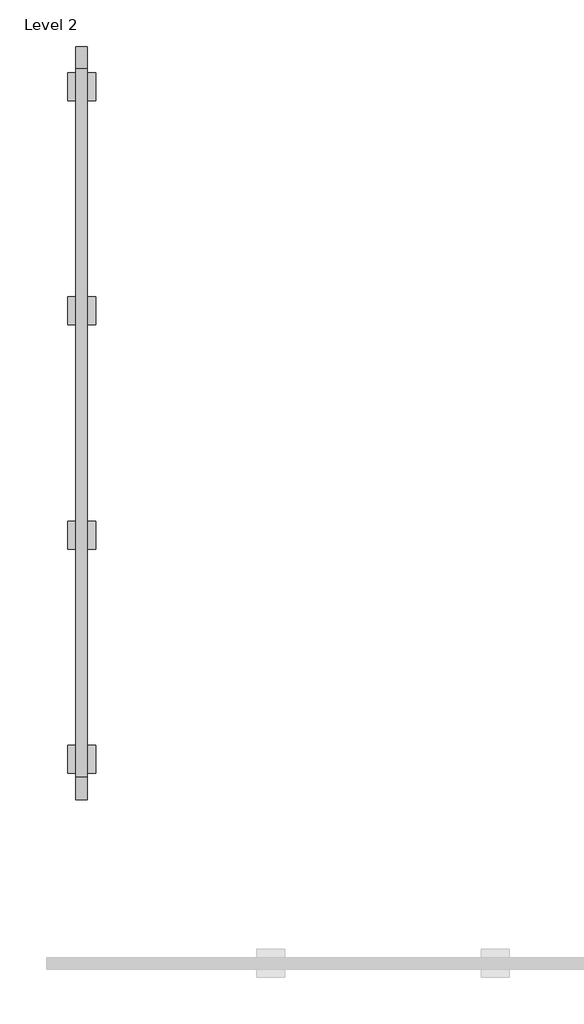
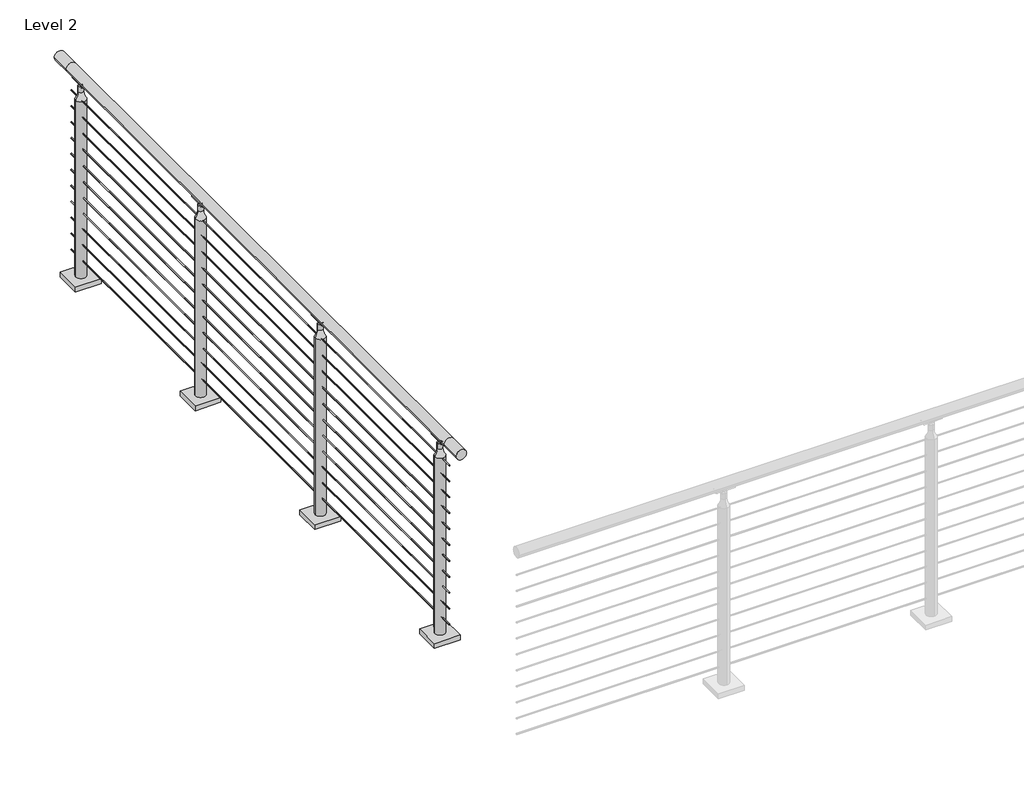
# One storey, part 10 of 21: 1 railing.
"""IFC4 building model written with IfcOpenShell, lengths in millimetres."""

from ifc_helpers import new_model, si_unit, point, frame, frame_2d, origin, place, context, project, spatial, polyline, circle_curve, ellipse_curve, trimmed, segment, composite_curve, outline, extrude, element, save
from ifc_brep_helpers import plane_surface, cylinder_surface, revolved_surface, advanced_brep

model = new_model("IFC4")

# Units and contexts
model_context = context("Model", 3, world=origin())
ifc_project = project(units=[si_unit("LENGTHUNIT", "METRE", prefix="MILLI")], contexts=[model_context])

# Site, building, storey
site = spatial("IfcSite", under=ifc_project)
building = spatial("IfcBuilding", under=site)
storey = spatial("IfcBuildingStorey", under=building, Name="Level 2", Elevation=3048.0)

# Railing
placement = place(None, origin())
element("IfcRailing", 1, ObjectType="VIVA-CIRCA-Cable-Floor Mount-Straight", at=placement, inside=storey, context=model_context, shape_type="SolidModel", body=[
    advanced_brep(
    [(15627.1572927, -51362.5040223, 4102.1), (15576.3572927, -51362.5040223, 4102.1), (15627.1572927, -51260.9040223, 4102.1), (15576.3572927, -51260.9040223, 4102.1), (15627.1572927, -48053.4426165, 4102.1), (15576.3572927, -48053.4426165, 4102.1), (15627.1572927, -47951.8426165, 4102.1), (15576.3572927, -47951.8426165, 4102.1)],
    [
        (0, 1, circle_curve(frame((15601.7572927, -51362.5040223, 4102.1), z_axis=(0.0, -1.0, 0.0), x_axis=(-1.0, 0.0, 0.0)), 25.4)),
        (1, 0, circle_curve(frame((15601.7572927, -51362.5040223, 4102.1), z_axis=(0.0, -1.0, 0.0), x_axis=(-1.0, 0.0, 0.0)), 25.4)),
        (0, 2),
        (2, 3, circle_curve(frame((15601.7572927, -51260.9040223, 4102.1), z_axis=(0.0, -1.0, 0.0), x_axis=(-1.0, 0.0, 0.0)), 25.4)),
        (3, 1),
        (3, 2, circle_curve(frame((15601.7572927, -51260.9040223, 4102.1), z_axis=(0.0, -1.0, 0.0), x_axis=(-1.0, 0.0, 0.0)), 25.4)),
        (2, 4),
        (4, 5, circle_curve(frame((15601.7572927, -48053.4426165, 4102.1), z_axis=(0.0, -1.0, 0.0), x_axis=(-1.0, 0.0, 0.0)), 25.4)),
        (5, 3),
        (5, 4, circle_curve(frame((15601.7572927, -48053.4426165, 4102.1), z_axis=(0.0, -1.0, 0.0), x_axis=(-1.0, 0.0, 0.0)), 25.4)),
        (6, 7, circle_curve(frame((15601.7572927, -47951.8426165, 4102.1), z_axis=(0.0, 1.0, 0.0), x_axis=(-1.0, 0.0, 0.0)), 25.4)),
        (7, 6, circle_curve(frame((15601.7572927, -47951.8426165, 4102.1), z_axis=(0.0, 1.0, 0.0), x_axis=(-1.0, 0.0, 0.0)), 25.4)),
        (4, 6),
        (7, 5),
    ],
    [
        plane_surface(frame((15601.7572927, -51362.5040223, 4127.5), z_axis=(0.0, -1.0, 0.0), x_axis=(0.0, 0.0, 1.0))),
        cylinder_surface(frame((15601.7572927, -51362.5040223, 4102.1), z_axis=(0.0, -1.0, 0.0), x_axis=(-1.0, 0.0, 0.0)), 25.4),
        cylinder_surface(frame((15601.7572927, -51260.9040223, 4102.1), z_axis=(0.0, -1.0, 0.0), x_axis=(-1.0, 0.0, 0.0)), 25.4),
        plane_surface(frame((15601.7572927, -47951.8426165, 4127.5), z_axis=(0.0, 1.0, 0.0), x_axis=(0.0, 0.0, 1.0))),
        cylinder_surface(frame((15601.7572927, -48053.4426165, 4102.1), z_axis=(0.0, -1.0, 0.0), x_axis=(-1.0, 0.0, 0.0)), 25.4),
    ],
    [
        (0, [[1, 2]]),
        (1, [[-1, 3, 4, 5]]),
        (1, [[-2, -5, 6, -3]]),
        (2, [[-4, 7, 8, 9]]),
        (2, [[-6, -9, 10, -7]]),
        (3, [[11, 12]]),
        (4, [[-8, 13, -12, 14]]),
        (4, [[-10, -14, -11, -13]]),
    ],
),
    extrude(outline(composite_curve([segment(trimmed(circle_curve(frame_2d((3985.4124, 15601.7572927)), 2.3876), [point((3985.4124, 15604.1448927))], [point((3985.4124, 15599.3696927))], False, "CARTESIAN"), True, "CONTINUOUS"), segment(trimmed(circle_curve(frame_2d((3985.4124, 15601.7572927)), 2.3876), [point((3985.4124, 15599.3696927))], [point((3985.4124, 15604.1448927))], False, "CARTESIAN"), True, "CONTINUOUS")], self_intersect=False)), frame((0.0, -51260.9040223, 0.0), z_axis=(0.0, 1.0, 0.0), x_axis=(0.0, 0.0, 1.0)), (0.0, 0.0, 1.0), 3207.4614057),
    extrude(outline(composite_curve([segment(trimmed(circle_curve(frame_2d((3902.8624, 15601.7572927)), 2.3876), [point((3902.8624, 15604.1448927))], [point((3902.8624, 15599.3696927))], False, "CARTESIAN"), True, "CONTINUOUS"), segment(trimmed(circle_curve(frame_2d((3902.8624, 15601.7572927)), 2.3876), [point((3902.8624, 15599.3696927))], [point((3902.8624, 15604.1448927))], False, "CARTESIAN"), True, "CONTINUOUS")], self_intersect=False)), frame((0.0, -51260.9040223, 0.0), z_axis=(0.0, 1.0, 0.0), x_axis=(0.0, 0.0, 1.0)), (0.0, 0.0, 1.0), 3207.4614057),
    extrude(outline(composite_curve([segment(trimmed(circle_curve(frame_2d((3820.3124, 15601.7572927)), 2.3876), [point((3820.3124, 15604.1448927))], [point((3820.3124, 15599.3696927))], False, "CARTESIAN"), True, "CONTINUOUS"), segment(trimmed(circle_curve(frame_2d((3820.3124, 15601.7572927)), 2.3876), [point((3820.3124, 15599.3696927))], [point((3820.3124, 15604.1448927))], False, "CARTESIAN"), True, "CONTINUOUS")], self_intersect=False)), frame((0.0, -51260.9040223, 0.0), z_axis=(0.0, 1.0, 0.0), x_axis=(0.0, 0.0, 1.0)), (0.0, 0.0, 1.0), 3207.4614057),
    extrude(outline(composite_curve([segment(trimmed(circle_curve(frame_2d((3737.7624, 15601.7572927)), 2.3876), [point((3737.7624, 15604.1448927))], [point((3737.7624, 15599.3696927))], False, "CARTESIAN"), True, "CONTINUOUS"), segment(trimmed(circle_curve(frame_2d((3737.7624, 15601.7572927)), 2.3876), [point((3737.7624, 15599.3696927))], [point((3737.7624, 15604.1448927))], False, "CARTESIAN"), True, "CONTINUOUS")], self_intersect=False)), frame((0.0, -51260.9040223, 0.0), z_axis=(0.0, 1.0, 0.0), x_axis=(0.0, 0.0, 1.0)), (0.0, 0.0, 1.0), 3207.4614057),
    extrude(outline(composite_curve([segment(trimmed(circle_curve(frame_2d((3655.2124, 15601.7572927)), 2.3876), [point((3655.2124, 15604.1448927))], [point((3655.2124, 15599.3696927))], False, "CARTESIAN"), True, "CONTINUOUS"), segment(trimmed(circle_curve(frame_2d((3655.2124, 15601.7572927)), 2.3876), [point((3655.2124, 15599.3696927))], [point((3655.2124, 15604.1448927))], False, "CARTESIAN"), True, "CONTINUOUS")], self_intersect=False)), frame((0.0, -51260.9040223, 0.0), z_axis=(0.0, 1.0, 0.0), x_axis=(0.0, 0.0, 1.0)), (0.0, 0.0, 1.0), 3207.4614057),
    extrude(outline(composite_curve([segment(trimmed(circle_curve(frame_2d((3572.6624, 15601.7572927)), 2.3876), [point((3572.6624, 15604.1448927))], [point((3572.6624, 15599.3696927))], False, "CARTESIAN"), True, "CONTINUOUS"), segment(trimmed(circle_curve(frame_2d((3572.6624, 15601.7572927)), 2.3876), [point((3572.6624, 15599.3696927))], [point((3572.6624, 15604.1448927))], False, "CARTESIAN"), True, "CONTINUOUS")], self_intersect=False)), frame((0.0, -51260.9040223, 0.0), z_axis=(0.0, 1.0, 0.0), x_axis=(0.0, 0.0, 1.0)), (0.0, 0.0, 1.0), 3207.4614057),
    extrude(outline(composite_curve([segment(trimmed(circle_curve(frame_2d((3490.1124, 15601.7572927)), 2.3876), [point((3490.1124, 15604.1448927))], [point((3490.1124, 15599.3696927))], False, "CARTESIAN"), True, "CONTINUOUS"), segment(trimmed(circle_curve(frame_2d((3490.1124, 15601.7572927)), 2.3876), [point((3490.1124, 15599.3696927))], [point((3490.1124, 15604.1448927))], False, "CARTESIAN"), True, "CONTINUOUS")], self_intersect=False)), frame((0.0, -51260.9040223, 0.0), z_axis=(0.0, 1.0, 0.0), x_axis=(0.0, 0.0, 1.0)), (0.0, 0.0, 1.0), 3207.4614057),
    extrude(outline(composite_curve([segment(trimmed(circle_curve(frame_2d((3407.5624, 15601.7572927)), 2.3876), [point((3407.5624, 15604.1448927))], [point((3407.5624, 15599.3696927))], False, "CARTESIAN"), True, "CONTINUOUS"), segment(trimmed(circle_curve(frame_2d((3407.5624, 15601.7572927)), 2.3876), [point((3407.5624, 15599.3696927))], [point((3407.5624, 15604.1448927))], False, "CARTESIAN"), True, "CONTINUOUS")], self_intersect=False)), frame((0.0, -51260.9040223, 0.0), z_axis=(0.0, 1.0, 0.0), x_axis=(0.0, 0.0, 1.0)), (0.0, 0.0, 1.0), 3207.4614057),
    extrude(outline(composite_curve([segment(trimmed(circle_curve(frame_2d((3325.0124, 15601.7572927)), 2.3876), [point((3325.0124, 15604.1448927))], [point((3325.0124, 15599.3696927))], False, "CARTESIAN"), True, "CONTINUOUS"), segment(trimmed(circle_curve(frame_2d((3325.0124, 15601.7572927)), 2.3876), [point((3325.0124, 15599.3696927))], [point((3325.0124, 15604.1448927))], False, "CARTESIAN"), True, "CONTINUOUS")], self_intersect=False)), frame((0.0, -51260.9040223, 0.0), z_axis=(0.0, 1.0, 0.0), x_axis=(0.0, 0.0, 1.0)), (0.0, 0.0, 1.0), 3207.4614057),
    extrude(outline(composite_curve([segment(trimmed(circle_curve(frame_2d((3242.4624, 15601.7572927)), 2.3876), [point((3242.4624, 15604.1448927))], [point((3242.4624, 15599.3696927))], False, "CARTESIAN"), True, "CONTINUOUS"), segment(trimmed(circle_curve(frame_2d((3242.4624, 15601.7572927)), 2.3876), [point((3242.4624, 15599.3696927))], [point((3242.4624, 15604.1448927))], False, "CARTESIAN"), True, "CONTINUOUS")], self_intersect=False)), frame((0.0, -51260.9040223, 0.0), z_axis=(0.0, 1.0, 0.0), x_axis=(0.0, 0.0, 1.0)), (0.0, 0.0, 1.0), 3207.4614057),
    extrude(outline(composite_curve([segment(trimmed(circle_curve(frame_2d((3159.9124, 15601.7572927)), 2.3876), [point((3159.9124, 15604.1448927))], [point((3159.9124, 15599.3696927))], False, "CARTESIAN"), True, "CONTINUOUS"), segment(trimmed(circle_curve(frame_2d((3159.9124, 15601.7572927)), 2.3876), [point((3159.9124, 15599.3696927))], [point((3159.9124, 15604.1448927))], False, "CARTESIAN"), True, "CONTINUOUS")], self_intersect=False)), frame((0.0, -51260.9040223, 0.0), z_axis=(0.0, 1.0, 0.0), x_axis=(0.0, 0.0, 1.0)), (0.0, 0.0, 1.0), 3207.4614057),
    extrude(outline(composite_curve([segment(trimmed(circle_curve(frame_2d((4078.7923545, 15587.7426605)), 2.9558141), [point((4081.3106679, 15589.2902182))], [point((4076.9214354, 15585.4543207))], False, "CARTESIAN"), True, "CONTINUOUS"), segment(trimmed(circle_curve(frame_2d((4104.1881188, 15601.720558)), 31.75), [point((4076.9214354, 15585.4543207))], [point((4076.3406769, 15616.971213))], False, "CARTESIAN"), True, "CONTINUOUS"), segment(trimmed(circle_curve(frame_2d((4078.7132623, 15615.4939079)), 2.7949225), [point((4076.3406769, 15616.971213))], [point((4081.2157471, 15614.2492548))], False, "CARTESIAN"), True, "CONTINUOUS"), segment(trimmed(circle_curve(frame_2d((4103.4254922, 15601.8540211)), 25.4345159), [point((4081.2157471, 15614.2492548))], [point((4081.3106679, 15589.2902182))], True, "CARTESIAN"), True, "CONTINUOUS")], self_intersect=False)), frame((0.0, -48178.0138444, 0.0), z_axis=(0.0, 1.0, 0.0), x_axis=(0.0, 0.0, 1.0)), (0.0, 0.0, 1.0), 90.4748),
    advanced_brep(
    [(15604.2972927, -48105.7085295, 4072.6506908), (15604.2972927, -48159.8443593, 4072.6506908), (15604.2972927, -48145.4764444, 4058.282776), (15604.2972927, -48120.0764444, 4058.282776), (15599.2172927, -48105.7085295, 4072.6506908), (15599.2172927, -48120.0764444, 4058.282776), (15599.2172927, -48145.4764444, 4058.282776), (15599.2172927, -48159.8443593, 4072.6506908)],
    [
        (0, 1),
        (1, 2, circle_curve(frame((15604.2972927, -48159.8443593, 4058.282776), z_axis=(-1.0, 0.0, 0.0), x_axis=(0.0, -1.0, 0.0)), 14.3679149)),
        (2, 3, circle_curve(frame((15604.2972927, -48132.7764444, 4058.282776), z_axis=(1.0, 0.0, 0.0), x_axis=(0.0, -1.0, 0.0)), 12.7)),
        (3, 0, circle_curve(frame((15604.2972927, -48105.7085295, 4058.282776), z_axis=(-1.0, 0.0, 0.0), x_axis=(0.0, -1.0, 0.0)), 14.3679149)),
        (4, 5, circle_curve(frame((15599.2172927, -48105.7085295, 4058.282776), z_axis=(1.0, 0.0, 0.0), x_axis=(0.0, -1.0, 0.0)), 14.3679149)),
        (5, 6, circle_curve(frame((15599.2172927, -48132.7764444, 4058.282776), z_axis=(-1.0, 0.0, 0.0), x_axis=(0.0, -1.0, 0.0)), 12.7)),
        (6, 7, circle_curve(frame((15599.2172927, -48159.8443593, 4058.282776), z_axis=(1.0, 0.0, 0.0), x_axis=(0.0, -1.0, 0.0)), 14.3679149)),
        (7, 4),
        (3, 5),
        (4, 0),
        (2, 6),
        (1, 7),
    ],
    [
        plane_surface(frame((15604.2972927, -48120.0764444, 4058.282776), z_axis=(1.0, 0.0, 0.0), x_axis=(0.0, 0.0, -1.0))),
        plane_surface(frame((15599.2172927, -48120.0764444, 4058.282776), z_axis=(-1.0, 0.0, 0.0), x_axis=(0.0, 0.0, 1.0))),
        revolved_surface(polyline([(15599.2172927, -48120.0764444, 4058.282776), (15604.2972927, -48120.0764444, 4058.282776)]), (15599.2172927, -48105.7085295, 4058.282776), (-1.0, 0.0, 0.0)),
        cylinder_surface(frame((15599.2172927, -48132.7764444, 4058.282776), z_axis=(1.0, 0.0, 0.0), x_axis=(0.0, -1.0, 0.0)), 12.7),
        revolved_surface(polyline([(15599.2172927, -48174.2122742, 4058.282776), (15604.2972927, -48174.2122742, 4058.282776)]), (15599.2172927, -48159.8443593, 4058.282776), (-1.0, 0.0, 0.0)),
        plane_surface(frame((15604.2972927, -48159.8443593, 4072.6506908), z_axis=(0.0, 0.0, 1.0), x_axis=(-1.0, 0.0, 0.0))),
    ],
    [
        (0, [[1, 2, 3, 4]]),
        (1, [[5, 6, 7, 8]]),
        (2, [[9, -5, 10, -4]]),
        (3, [[11, -6, -9, -3]]),
        (4, [[12, -7, -11, -2]]),
        (5, [[-10, -8, -12, -1]]),
    ],
),
    extrude(outline(polyline([(15538.2572927, -48196.2764444), (15538.2572927, -48069.2764444), (15665.2572927, -48069.2764444), (15665.2572927, -48196.2764444), (15538.2572927, -48196.2764444)])), frame((0.0, 0.0, 3048.0), z_axis=(0.0, 0.0, 1.0), x_axis=(1.0, 0.0, 0.0)), (0.0, 0.0, 1.0), 25.4),
    advanced_brep(
    [(15576.3578949, -48132.7764444, 3989.1347854), (15576.3578949, -48132.7764444, 3073.4), (15627.1566905, -48132.7764444, 3073.4), (15627.1566905, -48132.7764444, 3989.1347854), (15589.0193241, -48132.7764444, 4027.3486202), (15614.4952612, -48132.7764444, 4027.3486202), (15589.0193241, -48132.7764444, 4056.5779599), (15614.4952612, -48132.7764444, 4056.5779599), (15601.7572927, -48132.7764444, 4063.238668), (15601.7572927, -48132.7764444, 3073.4)],
    [
        (0, 1),
        (1, 2, circle_curve(frame((15601.7572927, -48132.7764444, 3073.4), z_axis=(0.0, 0.0, 1.0), x_axis=(1.0, 0.0, 0.0)), 25.3993978)),
        (2, 3),
        (3, 0, circle_curve(frame((15601.7572927, -48132.7764444, 3989.1347854), z_axis=(0.0, 0.0, -1.0), x_axis=(1.0, 0.0, 0.0)), 25.3993978)),
        (2, 1, circle_curve(frame((15601.7572927, -48132.7764444, 3073.4), z_axis=(0.0, 0.0, 1.0), x_axis=(1.0, 0.0, 0.0)), 25.3993978)),
        (0, 3, circle_curve(frame((15601.7572927, -48132.7764444, 3989.1347854), z_axis=(0.0, 0.0, -1.0), x_axis=(1.0, 0.0, 0.0)), 25.3993978)),
        (4, 0, circle_curve(frame((15525.0214558, -48132.7764444, 4027.3486202), z_axis=(0.0, 1.0, 0.0), x_axis=(-1.0, 0.0, 0.0)), 63.9978683)),
        (3, 5, circle_curve(frame((15678.4931295, -48132.7764444, 4027.3486202), z_axis=(0.0, 1.0, 0.0), x_axis=(1.0, 0.0, 0.0)), 63.9978683)),
        (5, 4, circle_curve(frame((15601.7572927, -48132.7764444, 4027.3486202), z_axis=(0.0, 0.0, -1.0), x_axis=(1.0, 0.0, 0.0)), 12.7379685)),
        (4, 5, circle_curve(frame((15601.7572927, -48132.7764444, 4027.3486202), z_axis=(0.0, 0.0, -1.0), x_axis=(1.0, 0.0, 0.0)), 12.7379685)),
        (6, 4),
        (5, 7),
        (7, 6, circle_curve(frame((15601.7572927, -48132.7764444, 4056.5779599), z_axis=(0.0, 0.0, -1.0), x_axis=(1.0, 0.0, 0.0)), 12.7379685)),
        (6, 7, circle_curve(frame((15601.7572927, -48132.7764444, 4056.5779599), z_axis=(0.0, 0.0, -1.0), x_axis=(1.0, 0.0, 0.0)), 12.7379685)),
        (8, 6, circle_curve(frame((15601.7572927, -48132.7764444, 4047.7282394), z_axis=(0.0, -1.0, 0.0), x_axis=(-1.0, 0.0, 0.0)), 15.5104286)),
        (7, 8, circle_curve(frame((15601.7572927, -48132.7764444, 4047.7282394), z_axis=(0.0, -1.0, 0.0), x_axis=(1.0, 0.0, 0.0)), 15.5104286)),
        (1, 9),
        (9, 2),
    ],
    [
        cylinder_surface(frame((15601.7572927, -48132.7764444, 4152.9), z_axis=(0.0, 0.0, 1.0), x_axis=(1.0, 0.0, 0.0)), 25.3993978),
        revolved_surface(trimmed(ellipse_curve(frame((15678.4931295, -48132.7764444, 4027.3486202), z_axis=(0.0, 1.0, 0.0), x_axis=(1.0, 0.0, 0.0)), 63.9978683, 63.9978683), [point((15627.1566905, -48132.7764444, 3989.1347854))], [point((15614.4952612, -48132.7764444, 4027.3486202))], True, "CARTESIAN"), (15601.7572927, -48132.7764444, 4152.9), (0.0, 0.0, 1.0)),
        cylinder_surface(frame((15601.7572927, -48132.7764444, 4152.9), z_axis=(0.0, 0.0, 1.0), x_axis=(1.0, 0.0, 0.0)), 12.7379685),
        revolved_surface(trimmed(ellipse_curve(frame((15601.7572927, -48132.7764444, 4047.7282394), z_axis=(0.0, -1.0, 0.0), x_axis=(1.0, 0.0, 0.0)), 15.5104286, 15.5104286), [point((15614.4952612, -48132.7764444, 4056.5779599))], [point((15601.7572927, -48132.7764444, 4063.238668))], True, "CARTESIAN"), (15601.7572927, -48132.7764444, 4152.9), (0.0, 0.0, 1.0)),
        plane_surface(frame((15601.7572927, -48132.7764444, 3073.4), z_axis=(0.0, 0.0, -1.0), x_axis=(1.0, 0.0, 0.0))),
    ],
    [
        (0, [[1, 2, 3, 4]]),
        (0, [[-3, 5, -1, 6]]),
        (1, [[7, -4, 8, 9]]),
        (1, [[-8, -6, -7, 10]]),
        (2, [[11, -9, 12, 13]]),
        (2, [[-12, -10, -11, 14]]),
        (3, [[15, -13, 16]]),
        (3, [[-16, -14, -15]]),
        (4, [[17, 18, -2]]),
        (4, [[-18, -17, -5]]),
    ],
),
    extrude(outline(composite_curve([segment(trimmed(circle_curve(frame_2d((4078.7923545, 15587.7426605)), 2.9558141), [point((4081.3106679, 15589.2902182))], [point((4076.9214354, 15585.4543207))], False, "CARTESIAN"), True, "CONTINUOUS"), segment(trimmed(circle_curve(frame_2d((4104.1881188, 15601.720558)), 31.75), [point((4076.9214354, 15585.4543207))], [point((4076.3406769, 15616.971213))], False, "CARTESIAN"), True, "CONTINUOUS"), segment(trimmed(circle_curve(frame_2d((4078.7132623, 15615.4939079)), 2.7949225), [point((4076.3406769, 15616.971213))], [point((4081.2157471, 15614.2492548))], False, "CARTESIAN"), True, "CONTINUOUS"), segment(trimmed(circle_curve(frame_2d((4103.4254922, 15601.8540211)), 25.4345159), [point((4081.2157471, 15614.2492548))], [point((4081.3106679, 15589.2902182))], True, "CARTESIAN"), True, "CONTINUOUS")], self_intersect=False)), frame((0.0, -49194.0138444, 0.0), z_axis=(0.0, 1.0, 0.0), x_axis=(0.0, 0.0, 1.0)), (0.0, 0.0, 1.0), 90.4748),
    advanced_brep(
    [(15604.2972927, -49121.7085295, 4072.6506908), (15604.2972927, -49175.8443593, 4072.6506908), (15604.2972927, -49161.4764444, 4058.282776), (15604.2972927, -49136.0764444, 4058.282776), (15599.2172927, -49121.7085295, 4072.6506908), (15599.2172927, -49136.0764444, 4058.282776), (15599.2172927, -49161.4764444, 4058.282776), (15599.2172927, -49175.8443593, 4072.6506908)],
    [
        (0, 1),
        (1, 2, circle_curve(frame((15604.2972927, -49175.8443593, 4058.282776), z_axis=(-1.0, 0.0, 0.0), x_axis=(0.0, -1.0, 0.0)), 14.3679149)),
        (2, 3, circle_curve(frame((15604.2972927, -49148.7764444, 4058.282776), z_axis=(1.0, 0.0, 0.0), x_axis=(0.0, -1.0, 0.0)), 12.7)),
        (3, 0, circle_curve(frame((15604.2972927, -49121.7085295, 4058.282776), z_axis=(-1.0, 0.0, 0.0), x_axis=(0.0, -1.0, 0.0)), 14.3679149)),
        (4, 5, circle_curve(frame((15599.2172927, -49121.7085295, 4058.282776), z_axis=(1.0, 0.0, 0.0), x_axis=(0.0, -1.0, 0.0)), 14.3679149)),
        (5, 6, circle_curve(frame((15599.2172927, -49148.7764444, 4058.282776), z_axis=(-1.0, 0.0, 0.0), x_axis=(0.0, -1.0, 0.0)), 12.7)),
        (6, 7, circle_curve(frame((15599.2172927, -49175.8443593, 4058.282776), z_axis=(1.0, 0.0, 0.0), x_axis=(0.0, -1.0, 0.0)), 14.3679149)),
        (7, 4),
        (3, 5),
        (4, 0),
        (2, 6),
        (1, 7),
    ],
    [
        plane_surface(frame((15604.2972927, -49136.0764444, 4058.282776), z_axis=(1.0, 0.0, 0.0), x_axis=(0.0, 0.0, -1.0))),
        plane_surface(frame((15599.2172927, -49136.0764444, 4058.282776), z_axis=(-1.0, 0.0, 0.0), x_axis=(0.0, 0.0, 1.0))),
        revolved_surface(polyline([(15599.2172927, -49136.0764444, 4058.282776), (15604.2972927, -49136.0764444, 4058.282776)]), (15599.2172927, -49121.7085295, 4058.282776), (-1.0, 0.0, 0.0)),
        cylinder_surface(frame((15599.2172927, -49148.7764444, 4058.282776), z_axis=(1.0, 0.0, 0.0), x_axis=(0.0, -1.0, 0.0)), 12.7),
        revolved_surface(polyline([(15599.2172927, -49190.2122742, 4058.282776), (15604.2972927, -49190.2122742, 4058.282776)]), (15599.2172927, -49175.8443593, 4058.282776), (-1.0, 0.0, 0.0)),
        plane_surface(frame((15604.2972927, -49175.8443593, 4072.6506908), z_axis=(0.0, 0.0, 1.0), x_axis=(-1.0, 0.0, 0.0))),
    ],
    [
        (0, [[1, 2, 3, 4]]),
        (1, [[5, 6, 7, 8]]),
        (2, [[9, -5, 10, -4]]),
        (3, [[11, -6, -9, -3]]),
        (4, [[12, -7, -11, -2]]),
        (5, [[-10, -8, -12, -1]]),
    ],
),
    extrude(outline(polyline([(15538.2572927, -49212.2764444), (15538.2572927, -49085.2764444), (15665.2572927, -49085.2764444), (15665.2572927, -49212.2764444), (15538.2572927, -49212.2764444)])), frame((0.0, 0.0, 3048.0), z_axis=(0.0, 0.0, 1.0), x_axis=(1.0, 0.0, 0.0)), (0.0, 0.0, 1.0), 25.4),
    advanced_brep(
    [(15576.3578949, -49148.7764444, 3989.1347854), (15576.3578949, -49148.7764444, 3073.4), (15627.1566905, -49148.7764444, 3073.4), (15627.1566905, -49148.7764444, 3989.1347854), (15589.0193241, -49148.7764444, 4027.3486202), (15614.4952612, -49148.7764444, 4027.3486202), (15589.0193241, -49148.7764444, 4056.5779599), (15614.4952612, -49148.7764444, 4056.5779599), (15601.7572927, -49148.7764444, 4063.238668), (15601.7572927, -49148.7764444, 3073.4)],
    [
        (0, 1),
        (1, 2, circle_curve(frame((15601.7572927, -49148.7764444, 3073.4), z_axis=(0.0, 0.0, 1.0), x_axis=(1.0, 0.0, 0.0)), 25.3993978)),
        (2, 3),
        (3, 0, circle_curve(frame((15601.7572927, -49148.7764444, 3989.1347854), z_axis=(0.0, 0.0, -1.0), x_axis=(1.0, 0.0, 0.0)), 25.3993978)),
        (2, 1, circle_curve(frame((15601.7572927, -49148.7764444, 3073.4), z_axis=(0.0, 0.0, 1.0), x_axis=(1.0, 0.0, 0.0)), 25.3993978)),
        (0, 3, circle_curve(frame((15601.7572927, -49148.7764444, 3989.1347854), z_axis=(0.0, 0.0, -1.0), x_axis=(1.0, 0.0, 0.0)), 25.3993978)),
        (4, 0, circle_curve(frame((15525.0214558, -49148.7764444, 4027.3486202), z_axis=(0.0, 1.0, 0.0), x_axis=(-1.0, 0.0, 0.0)), 63.9978683)),
        (3, 5, circle_curve(frame((15678.4931295, -49148.7764444, 4027.3486202), z_axis=(0.0, 1.0, 0.0), x_axis=(1.0, 0.0, 0.0)), 63.9978683)),
        (5, 4, circle_curve(frame((15601.7572927, -49148.7764444, 4027.3486202), z_axis=(0.0, 0.0, -1.0), x_axis=(1.0, 0.0, 0.0)), 12.7379685)),
        (4, 5, circle_curve(frame((15601.7572927, -49148.7764444, 4027.3486202), z_axis=(0.0, 0.0, -1.0), x_axis=(1.0, 0.0, 0.0)), 12.7379685)),
        (6, 4),
        (5, 7),
        (7, 6, circle_curve(frame((15601.7572927, -49148.7764444, 4056.5779599), z_axis=(0.0, 0.0, -1.0), x_axis=(1.0, 0.0, 0.0)), 12.7379685)),
        (6, 7, circle_curve(frame((15601.7572927, -49148.7764444, 4056.5779599), z_axis=(0.0, 0.0, -1.0), x_axis=(1.0, 0.0, 0.0)), 12.7379685)),
        (8, 6, circle_curve(frame((15601.7572927, -49148.7764444, 4047.7282394), z_axis=(0.0, -1.0, 0.0), x_axis=(-1.0, 0.0, 0.0)), 15.5104286)),
        (7, 8, circle_curve(frame((15601.7572927, -49148.7764444, 4047.7282394), z_axis=(0.0, -1.0, 0.0), x_axis=(1.0, 0.0, 0.0)), 15.5104286)),
        (1, 9),
        (9, 2),
    ],
    [
        cylinder_surface(frame((15601.7572927, -49148.7764444, 4152.9), z_axis=(0.0, 0.0, 1.0), x_axis=(1.0, 0.0, 0.0)), 25.3993978),
        revolved_surface(trimmed(ellipse_curve(frame((15678.4931295, -49148.7764444, 4027.3486202), z_axis=(0.0, 1.0, 0.0), x_axis=(1.0, 0.0, 0.0)), 63.9978683, 63.9978683), [point((15627.1566905, -49148.7764444, 3989.1347854))], [point((15614.4952612, -49148.7764444, 4027.3486202))], True, "CARTESIAN"), (15601.7572927, -49148.7764444, 4152.9), (0.0, 0.0, 1.0)),
        cylinder_surface(frame((15601.7572927, -49148.7764444, 4152.9), z_axis=(0.0, 0.0, 1.0), x_axis=(1.0, 0.0, 0.0)), 12.7379685),
        revolved_surface(trimmed(ellipse_curve(frame((15601.7572927, -49148.7764444, 4047.7282394), z_axis=(0.0, -1.0, 0.0), x_axis=(1.0, 0.0, 0.0)), 15.5104286, 15.5104286), [point((15614.4952612, -49148.7764444, 4056.5779599))], [point((15601.7572927, -49148.7764444, 4063.238668))], True, "CARTESIAN"), (15601.7572927, -49148.7764444, 4152.9), (0.0, 0.0, 1.0)),
        plane_surface(frame((15601.7572927, -49148.7764444, 3073.4), z_axis=(0.0, 0.0, -1.0), x_axis=(1.0, 0.0, 0.0))),
    ],
    [
        (0, [[1, 2, 3, 4]]),
        (0, [[-3, 5, -1, 6]]),
        (1, [[7, -4, 8, 9]]),
        (1, [[-8, -6, -7, 10]]),
        (2, [[11, -9, 12, 13]]),
        (2, [[-12, -10, -11, 14]]),
        (3, [[15, -13, 16]]),
        (3, [[-16, -14, -15]]),
        (4, [[17, 18, -2]]),
        (4, [[-18, -17, -5]]),
    ],
),
    extrude(outline(composite_curve([segment(trimmed(circle_curve(frame_2d((4078.7923545, 15587.7426605)), 2.9558141), [point((4081.3106679, 15589.2902182))], [point((4076.9214354, 15585.4543207))], False, "CARTESIAN"), True, "CONTINUOUS"), segment(trimmed(circle_curve(frame_2d((4104.1881188, 15601.720558)), 31.75), [point((4076.9214354, 15585.4543207))], [point((4076.3406769, 15616.971213))], False, "CARTESIAN"), True, "CONTINUOUS"), segment(trimmed(circle_curve(frame_2d((4078.7132623, 15615.4939079)), 2.7949225), [point((4076.3406769, 15616.971213))], [point((4081.2157471, 15614.2492548))], False, "CARTESIAN"), True, "CONTINUOUS"), segment(trimmed(circle_curve(frame_2d((4103.4254922, 15601.8540211)), 25.4345159), [point((4081.2157471, 15614.2492548))], [point((4081.3106679, 15589.2902182))], True, "CARTESIAN"), True, "CONTINUOUS")], self_intersect=False)), frame((0.0, -50210.0138444, 0.0), z_axis=(0.0, 1.0, 0.0), x_axis=(0.0, 0.0, 1.0)), (0.0, 0.0, 1.0), 90.4748),
    advanced_brep(
    [(15604.2972927, -50137.7085295, 4072.6506908), (15604.2972927, -50191.8443593, 4072.6506908), (15604.2972927, -50177.4764444, 4058.282776), (15604.2972927, -50152.0764444, 4058.282776), (15599.2172927, -50137.7085295, 4072.6506908), (15599.2172927, -50152.0764444, 4058.282776), (15599.2172927, -50177.4764444, 4058.282776), (15599.2172927, -50191.8443593, 4072.6506908)],
    [
        (0, 1),
        (1, 2, circle_curve(frame((15604.2972927, -50191.8443593, 4058.282776), z_axis=(-1.0, 0.0, 0.0), x_axis=(0.0, -1.0, 0.0)), 14.3679149)),
        (2, 3, circle_curve(frame((15604.2972927, -50164.7764444, 4058.282776), z_axis=(1.0, 0.0, 0.0), x_axis=(0.0, -1.0, 0.0)), 12.7)),
        (3, 0, circle_curve(frame((15604.2972927, -50137.7085295, 4058.282776), z_axis=(-1.0, 0.0, 0.0), x_axis=(0.0, -1.0, 0.0)), 14.3679149)),
        (4, 5, circle_curve(frame((15599.2172927, -50137.7085295, 4058.282776), z_axis=(1.0, 0.0, 0.0), x_axis=(0.0, -1.0, 0.0)), 14.3679149)),
        (5, 6, circle_curve(frame((15599.2172927, -50164.7764444, 4058.282776), z_axis=(-1.0, 0.0, 0.0), x_axis=(0.0, -1.0, 0.0)), 12.7)),
        (6, 7, circle_curve(frame((15599.2172927, -50191.8443593, 4058.282776), z_axis=(1.0, 0.0, 0.0), x_axis=(0.0, -1.0, 0.0)), 14.3679149)),
        (7, 4),
        (3, 5),
        (4, 0),
        (2, 6),
        (1, 7),
    ],
    [
        plane_surface(frame((15604.2972927, -50152.0764444, 4058.282776), z_axis=(1.0, 0.0, 0.0), x_axis=(0.0, 0.0, -1.0))),
        plane_surface(frame((15599.2172927, -50152.0764444, 4058.282776), z_axis=(-1.0, 0.0, 0.0), x_axis=(0.0, 0.0, 1.0))),
        revolved_surface(polyline([(15599.2172927, -50152.0764444, 4058.282776), (15604.2972927, -50152.0764444, 4058.282776)]), (15599.2172927, -50137.7085295, 4058.282776), (-1.0, 0.0, 0.0)),
        cylinder_surface(frame((15599.2172927, -50164.7764444, 4058.282776), z_axis=(1.0, 0.0, 0.0), x_axis=(0.0, -1.0, 0.0)), 12.7),
        revolved_surface(polyline([(15599.2172927, -50206.2122742, 4058.282776), (15604.2972927, -50206.2122742, 4058.282776)]), (15599.2172927, -50191.8443593, 4058.282776), (-1.0, 0.0, 0.0)),
        plane_surface(frame((15604.2972927, -50191.8443593, 4072.6506908), z_axis=(0.0, 0.0, 1.0), x_axis=(-1.0, 0.0, 0.0))),
    ],
    [
        (0, [[1, 2, 3, 4]]),
        (1, [[5, 6, 7, 8]]),
        (2, [[9, -5, 10, -4]]),
        (3, [[11, -6, -9, -3]]),
        (4, [[12, -7, -11, -2]]),
        (5, [[-10, -8, -12, -1]]),
    ],
),
    extrude(outline(polyline([(15538.2572927, -50228.2764444), (15538.2572927, -50101.2764444), (15665.2572927, -50101.2764444), (15665.2572927, -50228.2764444), (15538.2572927, -50228.2764444)])), frame((0.0, 0.0, 3048.0), z_axis=(0.0, 0.0, 1.0), x_axis=(1.0, 0.0, 0.0)), (0.0, 0.0, 1.0), 25.4),
    advanced_brep(
    [(15576.3578949, -50164.7764444, 3989.1347854), (15576.3578949, -50164.7764444, 3073.4), (15627.1566905, -50164.7764444, 3073.4), (15627.1566905, -50164.7764444, 3989.1347854), (15589.0193241, -50164.7764444, 4027.3486202), (15614.4952612, -50164.7764444, 4027.3486202), (15589.0193241, -50164.7764444, 4056.5779599), (15614.4952612, -50164.7764444, 4056.5779599), (15601.7572927, -50164.7764444, 4063.238668), (15601.7572927, -50164.7764444, 3073.4)],
    [
        (0, 1),
        (1, 2, circle_curve(frame((15601.7572927, -50164.7764444, 3073.4), z_axis=(0.0, 0.0, 1.0), x_axis=(1.0, 0.0, 0.0)), 25.3993978)),
        (2, 3),
        (3, 0, circle_curve(frame((15601.7572927, -50164.7764444, 3989.1347854), z_axis=(0.0, 0.0, -1.0), x_axis=(1.0, 0.0, 0.0)), 25.3993978)),
        (2, 1, circle_curve(frame((15601.7572927, -50164.7764444, 3073.4), z_axis=(0.0, 0.0, 1.0), x_axis=(1.0, 0.0, 0.0)), 25.3993978)),
        (0, 3, circle_curve(frame((15601.7572927, -50164.7764444, 3989.1347854), z_axis=(0.0, 0.0, -1.0), x_axis=(1.0, 0.0, 0.0)), 25.3993978)),
        (4, 0, circle_curve(frame((15525.0214558, -50164.7764444, 4027.3486202), z_axis=(0.0, 1.0, 0.0), x_axis=(-1.0, 0.0, 0.0)), 63.9978683)),
        (3, 5, circle_curve(frame((15678.4931295, -50164.7764444, 4027.3486202), z_axis=(0.0, 1.0, 0.0), x_axis=(1.0, 0.0, 0.0)), 63.9978683)),
        (5, 4, circle_curve(frame((15601.7572927, -50164.7764444, 4027.3486202), z_axis=(0.0, 0.0, -1.0), x_axis=(1.0, 0.0, 0.0)), 12.7379685)),
        (4, 5, circle_curve(frame((15601.7572927, -50164.7764444, 4027.3486202), z_axis=(0.0, 0.0, -1.0), x_axis=(1.0, 0.0, 0.0)), 12.7379685)),
        (6, 4),
        (5, 7),
        (7, 6, circle_curve(frame((15601.7572927, -50164.7764444, 4056.5779599), z_axis=(0.0, 0.0, -1.0), x_axis=(1.0, 0.0, 0.0)), 12.7379685)),
        (6, 7, circle_curve(frame((15601.7572927, -50164.7764444, 4056.5779599), z_axis=(0.0, 0.0, -1.0), x_axis=(1.0, 0.0, 0.0)), 12.7379685)),
        (8, 6, circle_curve(frame((15601.7572927, -50164.7764444, 4047.7282394), z_axis=(0.0, -1.0, 0.0), x_axis=(-1.0, 0.0, 0.0)), 15.5104286)),
        (7, 8, circle_curve(frame((15601.7572927, -50164.7764444, 4047.7282394), z_axis=(0.0, -1.0, 0.0), x_axis=(1.0, 0.0, 0.0)), 15.5104286)),
        (1, 9),
        (9, 2),
    ],
    [
        cylinder_surface(frame((15601.7572927, -50164.7764444, 4152.9), z_axis=(0.0, 0.0, 1.0), x_axis=(1.0, 0.0, 0.0)), 25.3993978),
        revolved_surface(trimmed(ellipse_curve(frame((15678.4931295, -50164.7764444, 4027.3486202), z_axis=(0.0, 1.0, 0.0), x_axis=(1.0, 0.0, 0.0)), 63.9978683, 63.9978683), [point((15627.1566905, -50164.7764444, 3989.1347854))], [point((15614.4952612, -50164.7764444, 4027.3486202))], True, "CARTESIAN"), (15601.7572927, -50164.7764444, 4152.9), (0.0, 0.0, 1.0)),
        cylinder_surface(frame((15601.7572927, -50164.7764444, 4152.9), z_axis=(0.0, 0.0, 1.0), x_axis=(1.0, 0.0, 0.0)), 12.7379685),
        revolved_surface(trimmed(ellipse_curve(frame((15601.7572927, -50164.7764444, 4047.7282394), z_axis=(0.0, -1.0, 0.0), x_axis=(1.0, 0.0, 0.0)), 15.5104286, 15.5104286), [point((15614.4952612, -50164.7764444, 4056.5779599))], [point((15601.7572927, -50164.7764444, 4063.238668))], True, "CARTESIAN"), (15601.7572927, -50164.7764444, 4152.9), (0.0, 0.0, 1.0)),
        plane_surface(frame((15601.7572927, -50164.7764444, 3073.4), z_axis=(0.0, 0.0, -1.0), x_axis=(1.0, 0.0, 0.0))),
    ],
    [
        (0, [[1, 2, 3, 4]]),
        (0, [[-3, 5, -1, 6]]),
        (1, [[7, -4, 8, 9]]),
        (1, [[-8, -6, -7, 10]]),
        (2, [[11, -9, 12, 13]]),
        (2, [[-12, -10, -11, 14]]),
        (3, [[15, -13, 16]]),
        (3, [[-16, -14, -15]]),
        (4, [[17, 18, -2]]),
        (4, [[-18, -17, -5]]),
    ],
),
    extrude(outline(composite_curve([segment(trimmed(circle_curve(frame_2d((4078.7923545, 15587.7426605)), 2.9558141), [point((4081.3106679, 15589.2902182))], [point((4076.9214354, 15585.4543207))], False, "CARTESIAN"), True, "CONTINUOUS"), segment(trimmed(circle_curve(frame_2d((4104.1881188, 15601.720558)), 31.75), [point((4076.9214354, 15585.4543207))], [point((4076.3406769, 15616.971213))], False, "CARTESIAN"), True, "CONTINUOUS"), segment(trimmed(circle_curve(frame_2d((4078.7132623, 15615.4939079)), 2.7949225), [point((4076.3406769, 15616.971213))], [point((4081.2157471, 15614.2492548))], False, "CARTESIAN"), True, "CONTINUOUS"), segment(trimmed(circle_curve(frame_2d((4103.4254922, 15601.8540211)), 25.4345159), [point((4081.2157471, 15614.2492548))], [point((4081.3106679, 15589.2902182))], True, "CARTESIAN"), True, "CONTINUOUS")], self_intersect=False)), frame((0.0, -51226.0138444, 0.0), z_axis=(0.0, 1.0, 0.0), x_axis=(0.0, 0.0, 1.0)), (0.0, 0.0, 1.0), 90.4748),
    advanced_brep(
    [(15604.2972927, -51153.7085295, 4072.6506908), (15604.2972927, -51207.8443593, 4072.6506908), (15604.2972927, -51193.4764444, 4058.282776), (15604.2972927, -51168.0764444, 4058.282776), (15599.2172927, -51153.7085295, 4072.6506908), (15599.2172927, -51168.0764444, 4058.282776), (15599.2172927, -51193.4764444, 4058.282776), (15599.2172927, -51207.8443593, 4072.6506908)],
    [
        (0, 1),
        (1, 2, circle_curve(frame((15604.2972927, -51207.8443593, 4058.282776), z_axis=(-1.0, 0.0, 0.0), x_axis=(0.0, -1.0, 0.0)), 14.3679149)),
        (2, 3, circle_curve(frame((15604.2972927, -51180.7764444, 4058.282776), z_axis=(1.0, 0.0, 0.0), x_axis=(0.0, -1.0, 0.0)), 12.7)),
        (3, 0, circle_curve(frame((15604.2972927, -51153.7085295, 4058.282776), z_axis=(-1.0, 0.0, 0.0), x_axis=(0.0, -1.0, 0.0)), 14.3679149)),
        (4, 5, circle_curve(frame((15599.2172927, -51153.7085295, 4058.282776), z_axis=(1.0, 0.0, 0.0), x_axis=(0.0, -1.0, 0.0)), 14.3679149)),
        (5, 6, circle_curve(frame((15599.2172927, -51180.7764444, 4058.282776), z_axis=(-1.0, 0.0, 0.0), x_axis=(0.0, -1.0, 0.0)), 12.7)),
        (6, 7, circle_curve(frame((15599.2172927, -51207.8443593, 4058.282776), z_axis=(1.0, 0.0, 0.0), x_axis=(0.0, -1.0, 0.0)), 14.3679149)),
        (7, 4),
        (3, 5),
        (4, 0),
        (2, 6),
        (1, 7),
    ],
    [
        plane_surface(frame((15604.2972927, -51168.0764444, 4058.282776), z_axis=(1.0, 0.0, 0.0), x_axis=(0.0, 0.0, -1.0))),
        plane_surface(frame((15599.2172927, -51168.0764444, 4058.282776), z_axis=(-1.0, 0.0, 0.0), x_axis=(0.0, 0.0, 1.0))),
        revolved_surface(polyline([(15599.2172927, -51168.0764444, 4058.282776), (15604.2972927, -51168.0764444, 4058.282776)]), (15599.2172927, -51153.7085295, 4058.282776), (-1.0, 0.0, 0.0)),
        cylinder_surface(frame((15599.2172927, -51180.7764444, 4058.282776), z_axis=(1.0, 0.0, 0.0), x_axis=(0.0, -1.0, 0.0)), 12.7),
        revolved_surface(polyline([(15599.2172927, -51222.2122742, 4058.282776), (15604.2972927, -51222.2122742, 4058.282776)]), (15599.2172927, -51207.8443593, 4058.282776), (-1.0, 0.0, 0.0)),
        plane_surface(frame((15604.2972927, -51207.8443593, 4072.6506908), z_axis=(0.0, 0.0, 1.0), x_axis=(-1.0, 0.0, 0.0))),
    ],
    [
        (0, [[1, 2, 3, 4]]),
        (1, [[5, 6, 7, 8]]),
        (2, [[9, -5, 10, -4]]),
        (3, [[11, -6, -9, -3]]),
        (4, [[12, -7, -11, -2]]),
        (5, [[-10, -8, -12, -1]]),
    ],
),
    extrude(outline(polyline([(15538.2572927, -51244.2764444), (15538.2572927, -51117.2764444), (15665.2572927, -51117.2764444), (15665.2572927, -51244.2764444), (15538.2572927, -51244.2764444)])), frame((0.0, 0.0, 3048.0), z_axis=(0.0, 0.0, 1.0), x_axis=(1.0, 0.0, 0.0)), (0.0, 0.0, 1.0), 25.4),
    advanced_brep(
    [(15576.3578949, -51180.7764444, 3989.1347854), (15576.3578949, -51180.7764444, 3073.4), (15627.1566905, -51180.7764444, 3073.4), (15627.1566905, -51180.7764444, 3989.1347854), (15589.0193241, -51180.7764444, 4027.3486202), (15614.4952612, -51180.7764444, 4027.3486202), (15589.0193241, -51180.7764444, 4056.5779599), (15614.4952612, -51180.7764444, 4056.5779599), (15601.7572927, -51180.7764444, 4063.238668), (15601.7572927, -51180.7764444, 3073.4)],
    [
        (0, 1),
        (1, 2, circle_curve(frame((15601.7572927, -51180.7764444, 3073.4), z_axis=(0.0, 0.0, 1.0), x_axis=(1.0, 0.0, 0.0)), 25.3993978)),
        (2, 3),
        (3, 0, circle_curve(frame((15601.7572927, -51180.7764444, 3989.1347854), z_axis=(0.0, 0.0, -1.0), x_axis=(1.0, 0.0, 0.0)), 25.3993978)),
        (2, 1, circle_curve(frame((15601.7572927, -51180.7764444, 3073.4), z_axis=(0.0, 0.0, 1.0), x_axis=(1.0, 0.0, 0.0)), 25.3993978)),
        (0, 3, circle_curve(frame((15601.7572927, -51180.7764444, 3989.1347854), z_axis=(0.0, 0.0, -1.0), x_axis=(1.0, 0.0, 0.0)), 25.3993978)),
        (4, 0, circle_curve(frame((15525.0214558, -51180.7764444, 4027.3486202), z_axis=(0.0, 1.0, 0.0), x_axis=(-1.0, 0.0, 0.0)), 63.9978683)),
        (3, 5, circle_curve(frame((15678.4931295, -51180.7764444, 4027.3486202), z_axis=(0.0, 1.0, 0.0), x_axis=(1.0, 0.0, 0.0)), 63.9978683)),
        (5, 4, circle_curve(frame((15601.7572927, -51180.7764444, 4027.3486202), z_axis=(0.0, 0.0, -1.0), x_axis=(1.0, 0.0, 0.0)), 12.7379685)),
        (4, 5, circle_curve(frame((15601.7572927, -51180.7764444, 4027.3486202), z_axis=(0.0, 0.0, -1.0), x_axis=(1.0, 0.0, 0.0)), 12.7379685)),
        (6, 4),
        (5, 7),
        (7, 6, circle_curve(frame((15601.7572927, -51180.7764444, 4056.5779599), z_axis=(0.0, 0.0, -1.0), x_axis=(1.0, 0.0, 0.0)), 12.7379685)),
        (6, 7, circle_curve(frame((15601.7572927, -51180.7764444, 4056.5779599), z_axis=(0.0, 0.0, -1.0), x_axis=(1.0, 0.0, 0.0)), 12.7379685)),
        (8, 6, circle_curve(frame((15601.7572927, -51180.7764444, 4047.7282394), z_axis=(0.0, -1.0, 0.0), x_axis=(-1.0, 0.0, 0.0)), 15.5104286)),
        (7, 8, circle_curve(frame((15601.7572927, -51180.7764444, 4047.7282394), z_axis=(0.0, -1.0, 0.0), x_axis=(1.0, 0.0, 0.0)), 15.5104286)),
        (1, 9),
        (9, 2),
    ],
    [
        cylinder_surface(frame((15601.7572927, -51180.7764444, 4152.9), z_axis=(0.0, 0.0, 1.0), x_axis=(1.0, 0.0, 0.0)), 25.3993978),
        revolved_surface(trimmed(ellipse_curve(frame((15678.4931295, -51180.7764444, 4027.3486202), z_axis=(0.0, 1.0, 0.0), x_axis=(1.0, 0.0, 0.0)), 63.9978683, 63.9978683), [point((15627.1566905, -51180.7764444, 3989.1347854))], [point((15614.4952612, -51180.7764444, 4027.3486202))], True, "CARTESIAN"), (15601.7572927, -51180.7764444, 4152.9), (0.0, 0.0, 1.0)),
        cylinder_surface(frame((15601.7572927, -51180.7764444, 4152.9), z_axis=(0.0, 0.0, 1.0), x_axis=(1.0, 0.0, 0.0)), 12.7379685),
        revolved_surface(trimmed(ellipse_curve(frame((15601.7572927, -51180.7764444, 4047.7282394), z_axis=(0.0, -1.0, 0.0), x_axis=(1.0, 0.0, 0.0)), 15.5104286, 15.5104286), [point((15614.4952612, -51180.7764444, 4056.5779599))], [point((15601.7572927, -51180.7764444, 4063.238668))], True, "CARTESIAN"), (15601.7572927, -51180.7764444, 4152.9), (0.0, 0.0, 1.0)),
        plane_surface(frame((15601.7572927, -51180.7764444, 3073.4), z_axis=(0.0, 0.0, -1.0), x_axis=(1.0, 0.0, 0.0))),
    ],
    [
        (0, [[1, 2, 3, 4]]),
        (0, [[-3, 5, -1, 6]]),
        (1, [[7, -4, 8, 9]]),
        (1, [[-8, -6, -7, 10]]),
        (2, [[11, -9, 12, 13]]),
        (2, [[-12, -10, -11, 14]]),
        (3, [[15, -13, 16]]),
        (3, [[-16, -14, -15]]),
        (4, [[17, 18, -2]]),
        (4, [[-18, -17, -5]]),
    ],
),
])

save(model, "model.ifc")
